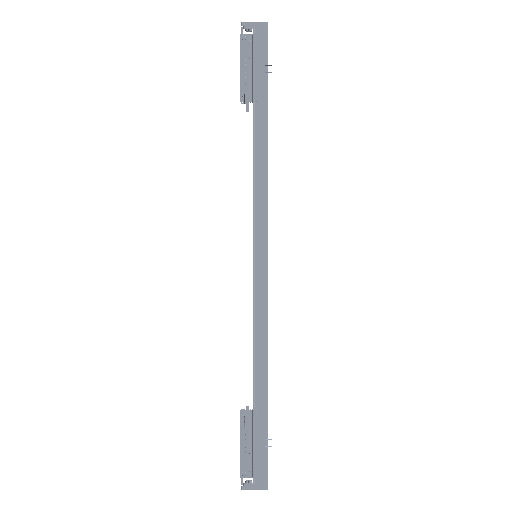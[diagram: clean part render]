
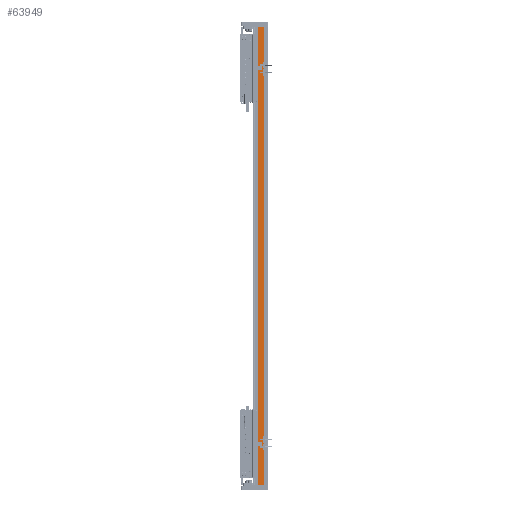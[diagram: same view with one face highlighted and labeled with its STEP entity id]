
A CAD part, left-side view. The second image highlights one B-rep face of the part: STEP entity #63949.
In plain terms, the highlighted planar face has unit normal (-1, 0, 0).
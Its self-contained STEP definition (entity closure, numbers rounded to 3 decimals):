
#358 = PLANE ( 'NONE',  #7279 ) ;
#7279 = AXIS2_PLACEMENT_3D ( 'NONE', #72059, #52257, #22639 ) ;
#9959 = EDGE_CURVE ( 'NONE', #78961, #29753, #28734, .T. ) ;
#17517 = DIRECTION ( 'NONE',  ( 0., 0., -1. ) ) ;
#22639 = DIRECTION ( 'NONE',  ( 0., 1., 0. ) ) ;
#24615 = EDGE_LOOP ( 'NONE', ( #46077, #33994, #69371, #73266 ) ) ;
#27569 = EDGE_CURVE ( 'NONE', #112902, #112289, #45377, .T. ) ;
#28734 = LINE ( 'NONE', #58982, #30508 ) ;
#29753 = VERTEX_POINT ( 'NONE', #119828 ) ;
#30508 = VECTOR ( 'NONE', #69532, 1000. ) ;
#33949 = EDGE_CURVE ( 'NONE', #112289, #29753, #48434, .T. ) ;
#33994 = ORIENTED_EDGE ( 'NONE', *, *, #33949, .F. ) ;
#35758 = CARTESIAN_POINT ( 'NONE',  ( -97.5, 36.95, 840. ) ) ;
#37486 = DIRECTION ( 'NONE',  ( 0., -1., 0. ) ) ;
#45377 = LINE ( 'NONE', #127059, #107484 ) ;
#46077 = ORIENTED_EDGE ( 'NONE', *, *, #9959, .T. ) ;
#48434 = LINE ( 'NONE', #107723, #83067 ) ;
#52257 = DIRECTION ( 'NONE',  ( 1., 0., 0. ) ) ;
#52997 = CARTESIAN_POINT ( 'NONE',  ( -97.5, 36.95, -840. ) ) ;
#58982 = CARTESIAN_POINT ( 'NONE',  ( -97.5, 36.95, -840. ) ) ;
#61497 = FACE_OUTER_BOUND ( 'NONE', #24615, .T. ) ;
#63949 = ADVANCED_FACE ( 'NONE', ( #61497 ), #358, .F. ) ;
#66026 = DIRECTION ( 'NONE',  ( 0., 0., -1. ) ) ;
#69371 = ORIENTED_EDGE ( 'NONE', *, *, #27569, .F. ) ;
#69532 = DIRECTION ( 'NONE',  ( 0., -1., 0. ) ) ;
#69594 = EDGE_CURVE ( 'NONE', #112902, #78961, #85770, .T. ) ;
#72059 = CARTESIAN_POINT ( 'NONE',  ( -97.5, 36.95, 840. ) ) ;
#73266 = ORIENTED_EDGE ( 'NONE', *, *, #69594, .T. ) ;
#78961 = VERTEX_POINT ( 'NONE', #52997 ) ;
#82443 = CARTESIAN_POINT ( 'NONE',  ( -97.5, 14.45, 840. ) ) ;
#83067 = VECTOR ( 'NONE', #17517, 1000. ) ;
#85770 = LINE ( 'NONE', #35758, #90023 ) ;
#90023 = VECTOR ( 'NONE', #66026, 1000. ) ;
#107484 = VECTOR ( 'NONE', #37486, 1000. ) ;
#107723 = CARTESIAN_POINT ( 'NONE',  ( -97.5, 14.45, 840. ) ) ;
#109690 = CARTESIAN_POINT ( 'NONE',  ( -97.5, 36.95, 840. ) ) ;
#112289 = VERTEX_POINT ( 'NONE', #82443 ) ;
#112902 = VERTEX_POINT ( 'NONE', #109690 ) ;
#119828 = CARTESIAN_POINT ( 'NONE',  ( -97.5, 14.45, -840. ) ) ;
#127059 = CARTESIAN_POINT ( 'NONE',  ( -97.5, 36.95, 840. ) ) ;
